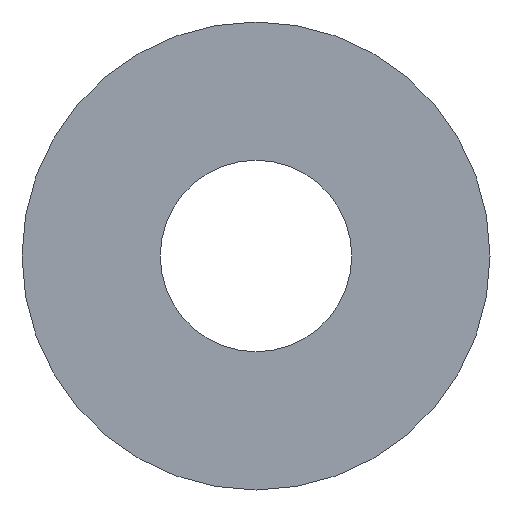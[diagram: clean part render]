
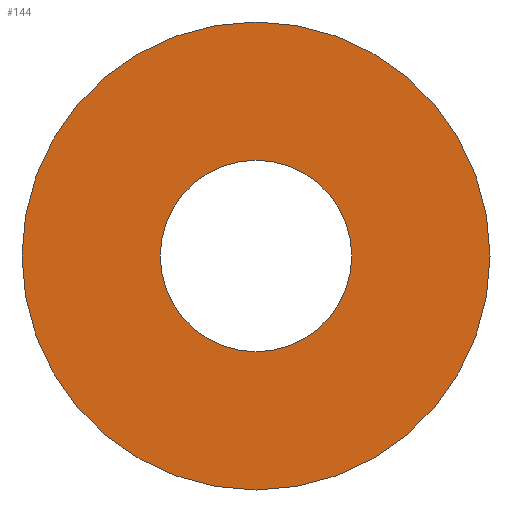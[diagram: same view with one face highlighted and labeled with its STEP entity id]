
A CAD part, left-side view. The second image highlights one B-rep face of the part: STEP entity #144.
In plain terms, the highlighted planar face has unit normal (-1, 0, 0).
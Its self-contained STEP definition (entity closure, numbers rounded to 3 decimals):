
#31 = CYLINDRICAL_SURFACE('',#32,5.5);
#32 = AXIS2_PLACEMENT_3D('',#33,#34,#35);
#33 = CARTESIAN_POINT('',(85.175,48.747,-195.515));
#34 = DIRECTION('',(1.,0.,0.));
#35 = DIRECTION('',(-0.,0.,1.));
#56 = VERTEX_POINT('',#57);
#57 = CARTESIAN_POINT('',(85.175,48.747,-190.015));
#78 = EDGE_CURVE('',#56,#56,#79,.T.);
#79 = SURFACE_CURVE('',#80,(#85,#92),.PCURVE_S1.);
#80 = CIRCLE('',#81,5.5);
#81 = AXIS2_PLACEMENT_3D('',#82,#83,#84);
#82 = CARTESIAN_POINT('',(85.175,48.747,-195.515));
#83 = DIRECTION('',(1.,0.,0.));
#84 = DIRECTION('',(-0.,0.,1.));
#85 = PCURVE('',#31,#86);
#86 = DEFINITIONAL_REPRESENTATION('',(#87),#91);
#87 = LINE('',#88,#89);
#88 = CARTESIAN_POINT('',(0.,0.));
#89 = VECTOR('',#90,1.);
#90 = DIRECTION('',(1.,0.));
#91 = ( GEOMETRIC_REPRESENTATION_CONTEXT(2) 
PARAMETRIC_REPRESENTATION_CONTEXT() REPRESENTATION_CONTEXT('2D SPACE',''
  ) );
#92 = PCURVE('',#93,#98);
#93 = PLANE('',#94);
#94 = AXIS2_PLACEMENT_3D('',#95,#96,#97);
#95 = CARTESIAN_POINT('',(85.175,48.747,-195.515));
#96 = DIRECTION('',(1.,0.,0.));
#97 = DIRECTION('',(-0.,0.,1.));
#98 = DEFINITIONAL_REPRESENTATION('',(#99),#103);
#99 = CIRCLE('',#100,5.5);
#100 = AXIS2_PLACEMENT_2D('',#101,#102);
#101 = CARTESIAN_POINT('',(0.,0.));
#102 = DIRECTION('',(1.,0.));
#103 = ( GEOMETRIC_REPRESENTATION_CONTEXT(2) 
PARAMETRIC_REPRESENTATION_CONTEXT() REPRESENTATION_CONTEXT('2D SPACE',''
  ) );
#133 = CYLINDRICAL_SURFACE('',#134,2.25);
#134 = AXIS2_PLACEMENT_3D('',#135,#136,#137);
#135 = CARTESIAN_POINT('',(90.,48.747,-195.515));
#136 = DIRECTION('',(-1.,0.,0.));
#137 = DIRECTION('',(0.,0.,-1.));
#144 = ADVANCED_FACE('',(#145,#148),#93,.F.);
#145 = FACE_BOUND('',#146,.F.);
#146 = EDGE_LOOP('',(#147));
#147 = ORIENTED_EDGE('',*,*,#78,.T.);
#148 = FACE_BOUND('',#149,.F.);
#149 = EDGE_LOOP('',(#150));
#150 = ORIENTED_EDGE('',*,*,#151,.T.);
#151 = EDGE_CURVE('',#152,#152,#154,.T.);
#152 = VERTEX_POINT('',#153);
#153 = CARTESIAN_POINT('',(85.175,48.747,-197.765));
#154 = SURFACE_CURVE('',#155,(#160,#171),.PCURVE_S1.);
#155 = CIRCLE('',#156,2.25);
#156 = AXIS2_PLACEMENT_3D('',#157,#158,#159);
#157 = CARTESIAN_POINT('',(85.175,48.747,-195.515));
#158 = DIRECTION('',(-1.,0.,0.));
#159 = DIRECTION('',(0.,0.,-1.));
#160 = PCURVE('',#93,#161);
#161 = DEFINITIONAL_REPRESENTATION('',(#162),#170);
#162 = ( BOUNDED_CURVE() B_SPLINE_CURVE(2,(#163,#164,#165,#166,#167,#168
,#169),.UNSPECIFIED.,.T.,.F.) B_SPLINE_CURVE_WITH_KNOTS((1,2,2,2,2,1),(
    -2.094,0.,2.094,4.189,6.283,
8.378),.UNSPECIFIED.) CURVE() GEOMETRIC_REPRESENTATION_ITEM() 
RATIONAL_B_SPLINE_CURVE((1.,0.5,1.,0.5,1.,0.5,1.)) REPRESENTATION_ITEM(
  '') );
#163 = CARTESIAN_POINT('',(-2.25,0.));
#164 = CARTESIAN_POINT('',(-2.25,3.897));
#165 = CARTESIAN_POINT('',(1.125,1.949));
#166 = CARTESIAN_POINT('',(4.5,0.));
#167 = CARTESIAN_POINT('',(1.125,-1.949));
#168 = CARTESIAN_POINT('',(-2.25,-3.897));
#169 = CARTESIAN_POINT('',(-2.25,0.));
#170 = ( GEOMETRIC_REPRESENTATION_CONTEXT(2) 
PARAMETRIC_REPRESENTATION_CONTEXT() REPRESENTATION_CONTEXT('2D SPACE',''
  ) );
#171 = PCURVE('',#133,#172);
#172 = DEFINITIONAL_REPRESENTATION('',(#173),#177);
#173 = LINE('',#174,#175);
#174 = CARTESIAN_POINT('',(0.,4.825));
#175 = VECTOR('',#176,1.);
#176 = DIRECTION('',(1.,0.));
#177 = ( GEOMETRIC_REPRESENTATION_CONTEXT(2) 
PARAMETRIC_REPRESENTATION_CONTEXT() REPRESENTATION_CONTEXT('2D SPACE',''
  ) );
